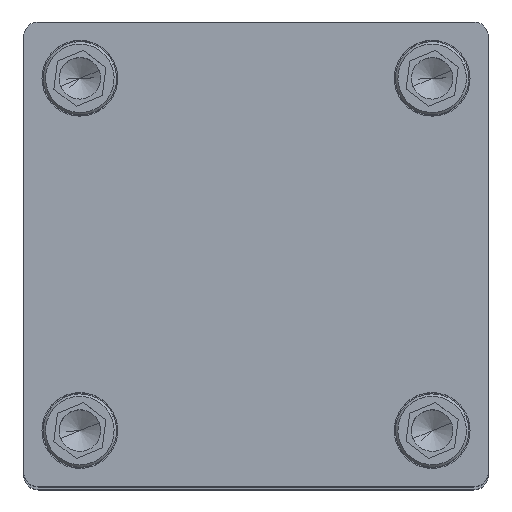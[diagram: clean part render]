
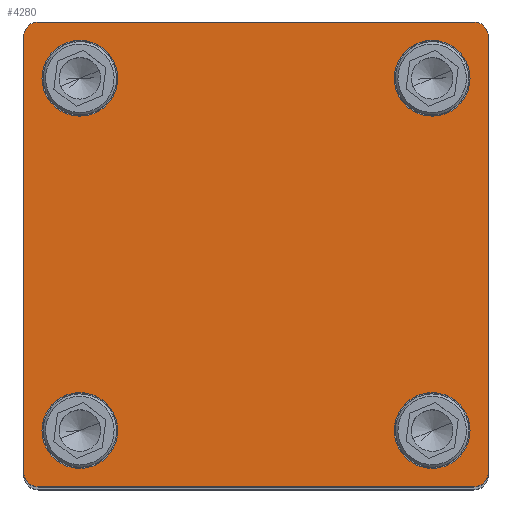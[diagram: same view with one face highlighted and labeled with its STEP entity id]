
A CAD part, top view. The second image highlights one B-rep face of the part: STEP entity #4280.
In plain terms, the highlighted planar face has unit normal (0, 0, 1).
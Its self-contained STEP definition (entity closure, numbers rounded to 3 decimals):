
#2 = DIRECTION ( 'NONE',  ( -1., 0., 0. ) ) ;
#156 = DIRECTION ( 'NONE',  ( 1., 0., 0. ) ) ;
#219 = CARTESIAN_POINT ( 'NONE',  ( -23.619, -31.702, 279.637 ) ) ;
#236 = EDGE_CURVE ( 'NONE', #10016, #1327, #7165, .T. ) ;
#294 = FACE_BOUND ( 'NONE', #10534, .T. ) ;
#313 = EDGE_CURVE ( 'NONE', #1327, #10016, #8422, .T. ) ;
#398 = ORIENTED_EDGE ( 'NONE', *, *, #11713, .T. ) ;
#623 = PLANE ( 'NONE',  #986 ) ;
#986 = AXIS2_PLACEMENT_3D ( 'NONE', #12764, #7748, #9890 ) ;
#1200 = CARTESIAN_POINT ( 'NONE',  ( 40.631, 40.298, 279.637 ) ) ;
#1245 = VERTEX_POINT ( 'NONE', #3929 ) ;
#1280 = EDGE_CURVE ( 'NONE', #2204, #12258, #7285, .T. ) ;
#1327 = VERTEX_POINT ( 'NONE', #5211 ) ;
#1333 = ORIENTED_EDGE ( 'NONE', *, *, #4410, .T. ) ;
#1467 = DIRECTION ( 'NONE',  ( 0., 0., 1. ) ) ;
#1468 = VERTEX_POINT ( 'NONE', #3229 ) ;
#1515 = DIRECTION ( 'NONE',  ( 0., 0., 1. ) ) ;
#1642 = EDGE_CURVE ( 'NONE', #1468, #13047, #7589, .T. ) ;
#1776 = CARTESIAN_POINT ( 'NONE',  ( -42.869, 48.798, 279.637 ) ) ;
#1850 = CARTESIAN_POINT ( 'NONE',  ( 52.131, -40.202, 279.637 ) ) ;
#2073 = DIRECTION ( 'NONE',  ( -1., 0., 0. ) ) ;
#2089 = CARTESIAN_POINT ( 'NONE',  ( 52.131, -43.202, 279.637 ) ) ;
#2204 = VERTEX_POINT ( 'NONE', #5568 ) ;
#2491 = DIRECTION ( 'NONE',  ( 1., 0., 0. ) ) ;
#2508 = DIRECTION ( 'NONE',  ( 1., 0., 0. ) ) ;
#2524 = CARTESIAN_POINT ( 'NONE',  ( -42.869, 51.798, 279.637 ) ) ;
#2849 = CARTESIAN_POINT ( 'NONE',  ( -39.869, -40.202, 279.637 ) ) ;
#2854 = EDGE_CURVE ( 'NONE', #12486, #4898, #4157, .T. ) ;
#3067 = CARTESIAN_POINT ( 'NONE',  ( -39.869, 51.798, 279.637 ) ) ;
#3104 = EDGE_LOOP ( 'NONE', ( #12287, #6011 ) ) ;
#3108 = CARTESIAN_POINT ( 'NONE',  ( -39.869, -43.202, 279.637 ) ) ;
#3229 = CARTESIAN_POINT ( 'NONE',  ( 32.881, -31.702, 279.637 ) ) ;
#3638 = DIRECTION ( 'NONE',  ( -1., 0., 0. ) ) ;
#3929 = CARTESIAN_POINT ( 'NONE',  ( -39.119, -31.702, 279.637 ) ) ;
#3958 = CIRCLE ( 'NONE', #10647, 3. ) ;
#3975 = DIRECTION ( 'NONE',  ( 0., 0., 1. ) ) ;
#3987 = DIRECTION ( 'NONE',  ( 1., 0., 0. ) ) ;
#3999 = AXIS2_PLACEMENT_3D ( 'NONE', #6900, #6764, #7729 ) ;
#4057 = DIRECTION ( 'NONE',  ( 0., 1., 0. ) ) ;
#4082 = DIRECTION ( 'NONE',  ( 0., 0., 1. ) ) ;
#4127 = CARTESIAN_POINT ( 'NONE',  ( 49.131, 48.798, 279.637 ) ) ;
#4157 = CIRCLE ( 'NONE', #6154, 7.75 ) ;
#4203 = VERTEX_POINT ( 'NONE', #12491 ) ;
#4278 = FACE_BOUND ( 'NONE', #10869, .T. ) ;
#4280 = ADVANCED_FACE ( 'NONE', ( #4278, #10435, #294, #9969, #8094 ), #623, .F. ) ;
#4393 = AXIS2_PLACEMENT_3D ( 'NONE', #13081, #7054, #2 ) ;
#4396 = LINE ( 'NONE', #4531, #7417 ) ;
#4410 = EDGE_CURVE ( 'NONE', #9942, #7432, #3958, .T. ) ;
#4531 = CARTESIAN_POINT ( 'NONE',  ( -42.869, -43.202, 279.637 ) ) ;
#4572 = DIRECTION ( 'NONE',  ( 0., -1., 0. ) ) ;
#4635 = EDGE_CURVE ( 'NONE', #10549, #1245, #8553, .T. ) ;
#4697 = ORIENTED_EDGE ( 'NONE', *, *, #12936, .F. ) ;
#4775 = ORIENTED_EDGE ( 'NONE', *, *, #1280, .T. ) ;
#4839 = ORIENTED_EDGE ( 'NONE', *, *, #1642, .F. ) ;
#4898 = VERTEX_POINT ( 'NONE', #13062 ) ;
#5014 = DIRECTION ( 'NONE',  ( 0., 0., 1. ) ) ;
#5164 = EDGE_CURVE ( 'NONE', #11152, #9942, #4396, .T. ) ;
#5211 = CARTESIAN_POINT ( 'NONE',  ( -39.119, 40.298, 279.637 ) ) ;
#5239 = VECTOR ( 'NONE', #8692, 1000. ) ;
#5243 = CIRCLE ( 'NONE', #3999, 7.75 ) ;
#5256 = CARTESIAN_POINT ( 'NONE',  ( 48.381, -31.702, 279.637 ) ) ;
#5383 = VECTOR ( 'NONE', #10478, 1000. ) ;
#5385 = CARTESIAN_POINT ( 'NONE',  ( -42.869, -43.202, 279.637 ) ) ;
#5568 = CARTESIAN_POINT ( 'NONE',  ( 49.131, -43.202, 279.637 ) ) ;
#6011 = ORIENTED_EDGE ( 'NONE', *, *, #2854, .F. ) ;
#6154 = AXIS2_PLACEMENT_3D ( 'NONE', #1200, #7294, #12490 ) ;
#6245 = CARTESIAN_POINT ( 'NONE',  ( 40.631, 40.298, 279.637 ) ) ;
#6267 = EDGE_CURVE ( 'NONE', #7432, #2204, #10758, .T. ) ;
#6287 = AXIS2_PLACEMENT_3D ( 'NONE', #6734, #1515, #9586 ) ;
#6478 = CARTESIAN_POINT ( 'NONE',  ( 40.631, -31.702, 279.637 ) ) ;
#6516 = AXIS2_PLACEMENT_3D ( 'NONE', #10950, #10767, #9845 ) ;
#6631 = EDGE_CURVE ( 'NONE', #11353, #11152, #9668, .T. ) ;
#6707 = EDGE_CURVE ( 'NONE', #1245, #10549, #5243, .T. ) ;
#6734 = CARTESIAN_POINT ( 'NONE',  ( -31.369, 40.298, 279.637 ) ) ;
#6764 = DIRECTION ( 'NONE',  ( 0., 0., 1. ) ) ;
#6781 = CARTESIAN_POINT ( 'NONE',  ( 49.131, 51.798, 279.637 ) ) ;
#6900 = CARTESIAN_POINT ( 'NONE',  ( -31.369, -31.702, 279.637 ) ) ;
#7054 = DIRECTION ( 'NONE',  ( 0., 0., 1. ) ) ;
#7117 = CARTESIAN_POINT ( 'NONE',  ( 32.881, 40.298, 279.637 ) ) ;
#7165 = CIRCLE ( 'NONE', #6287, 7.75 ) ;
#7285 = CIRCLE ( 'NONE', #4393, 3. ) ;
#7294 = DIRECTION ( 'NONE',  ( 0., 0., 1. ) ) ;
#7324 = AXIS2_PLACEMENT_3D ( 'NONE', #4127, #5014, #2073 ) ;
#7417 = VECTOR ( 'NONE', #4572, 1000. ) ;
#7432 = VERTEX_POINT ( 'NONE', #3108 ) ;
#7443 = CARTESIAN_POINT ( 'NONE',  ( -23.619, 40.298, 279.637 ) ) ;
#7472 = LINE ( 'NONE', #2524, #5239 ) ;
#7496 = AXIS2_PLACEMENT_3D ( 'NONE', #6245, #4082, #156 ) ;
#7508 = ORIENTED_EDGE ( 'NONE', *, *, #6707, .F. ) ;
#7555 = DIRECTION ( 'NONE',  ( 0., 0., 1. ) ) ;
#7557 = EDGE_CURVE ( 'NONE', #4203, #10243, #12311, .T. ) ;
#7589 = CIRCLE ( 'NONE', #12445, 7.75 ) ;
#7729 = DIRECTION ( 'NONE',  ( 1., 0., 0. ) ) ;
#7748 = DIRECTION ( 'NONE',  ( 0., 0., -1. ) ) ;
#7757 = ORIENTED_EDGE ( 'NONE', *, *, #7557, .T. ) ;
#7846 = ORIENTED_EDGE ( 'NONE', *, *, #4635, .F. ) ;
#8061 = DIRECTION ( 'NONE',  ( -1., 0., 0. ) ) ;
#8094 = FACE_OUTER_BOUND ( 'NONE', #11975, .T. ) ;
#8135 = EDGE_CURVE ( 'NONE', #4898, #12486, #11190, .T. ) ;
#8196 = ORIENTED_EDGE ( 'NONE', *, *, #313, .F. ) ;
#8379 = CIRCLE ( 'NONE', #11720, 7.75 ) ;
#8407 = ORIENTED_EDGE ( 'NONE', *, *, #5164, .T. ) ;
#8422 = CIRCLE ( 'NONE', #6516, 7.75 ) ;
#8517 = ORIENTED_EDGE ( 'NONE', *, *, #6631, .T. ) ;
#8553 = CIRCLE ( 'NONE', #12434, 7.75 ) ;
#8649 = CARTESIAN_POINT ( 'NONE',  ( -39.869, 48.798, 279.637 ) ) ;
#8692 = DIRECTION ( 'NONE',  ( -1., 0., 0. ) ) ;
#9030 = CARTESIAN_POINT ( 'NONE',  ( 40.631, -31.702, 279.637 ) ) ;
#9586 = DIRECTION ( 'NONE',  ( 1., 0., 0. ) ) ;
#9668 = CIRCLE ( 'NONE', #12796, 3. ) ;
#9845 = DIRECTION ( 'NONE',  ( 1., 0., 0. ) ) ;
#9890 = DIRECTION ( 'NONE',  ( -1., 0., 0. ) ) ;
#9942 = VERTEX_POINT ( 'NONE', #10079 ) ;
#9969 = FACE_BOUND ( 'NONE', #3104, .T. ) ;
#10016 = VERTEX_POINT ( 'NONE', #7443 ) ;
#10031 = DIRECTION ( 'NONE',  ( 0., 0., 1. ) ) ;
#10079 = CARTESIAN_POINT ( 'NONE',  ( -42.869, -40.202, 279.637 ) ) ;
#10138 = LINE ( 'NONE', #2089, #10455 ) ;
#10243 = VERTEX_POINT ( 'NONE', #6781 ) ;
#10435 = FACE_BOUND ( 'NONE', #11734, .T. ) ;
#10455 = VECTOR ( 'NONE', #4057, 1000. ) ;
#10478 = DIRECTION ( 'NONE',  ( 1., 0., 0. ) ) ;
#10521 = EDGE_CURVE ( 'NONE', #12258, #4203, #10138, .T. ) ;
#10534 = EDGE_LOOP ( 'NONE', ( #12440, #8196 ) ) ;
#10549 = VERTEX_POINT ( 'NONE', #219 ) ;
#10637 = CARTESIAN_POINT ( 'NONE',  ( -31.369, -31.702, 279.637 ) ) ;
#10647 = AXIS2_PLACEMENT_3D ( 'NONE', #2849, #3975, #8061 ) ;
#10758 = LINE ( 'NONE', #5385, #5383 ) ;
#10767 = DIRECTION ( 'NONE',  ( 0., 0., 1. ) ) ;
#10869 = EDGE_LOOP ( 'NONE', ( #4697, #4839 ) ) ;
#10950 = CARTESIAN_POINT ( 'NONE',  ( -31.369, 40.298, 279.637 ) ) ;
#11152 = VERTEX_POINT ( 'NONE', #1776 ) ;
#11190 = CIRCLE ( 'NONE', #7496, 7.75 ) ;
#11353 = VERTEX_POINT ( 'NONE', #3067 ) ;
#11518 = DIRECTION ( 'NONE',  ( 0., 0., 1. ) ) ;
#11713 = EDGE_CURVE ( 'NONE', #10243, #11353, #7472, .T. ) ;
#11720 = AXIS2_PLACEMENT_3D ( 'NONE', #9030, #10031, #3987 ) ;
#11734 = EDGE_LOOP ( 'NONE', ( #7846, #7508 ) ) ;
#11851 = ORIENTED_EDGE ( 'NONE', *, *, #10521, .T. ) ;
#11975 = EDGE_LOOP ( 'NONE', ( #12007, #4775, #11851, #7757, #398, #8517, #8407, #1333 ) ) ;
#12007 = ORIENTED_EDGE ( 'NONE', *, *, #6267, .T. ) ;
#12258 = VERTEX_POINT ( 'NONE', #1850 ) ;
#12287 = ORIENTED_EDGE ( 'NONE', *, *, #8135, .F. ) ;
#12311 = CIRCLE ( 'NONE', #7324, 3. ) ;
#12434 = AXIS2_PLACEMENT_3D ( 'NONE', #10637, #1467, #2491 ) ;
#12440 = ORIENTED_EDGE ( 'NONE', *, *, #236, .F. ) ;
#12445 = AXIS2_PLACEMENT_3D ( 'NONE', #6478, #11518, #2508 ) ;
#12486 = VERTEX_POINT ( 'NONE', #7117 ) ;
#12490 = DIRECTION ( 'NONE',  ( 1., 0., 0. ) ) ;
#12491 = CARTESIAN_POINT ( 'NONE',  ( 52.131, 48.798, 279.637 ) ) ;
#12764 = CARTESIAN_POINT ( 'NONE',  ( 52.131, 51.798, 279.637 ) ) ;
#12796 = AXIS2_PLACEMENT_3D ( 'NONE', #8649, #7555, #3638 ) ;
#12936 = EDGE_CURVE ( 'NONE', #13047, #1468, #8379, .T. ) ;
#13047 = VERTEX_POINT ( 'NONE', #5256 ) ;
#13062 = CARTESIAN_POINT ( 'NONE',  ( 48.381, 40.298, 279.637 ) ) ;
#13081 = CARTESIAN_POINT ( 'NONE',  ( 49.131, -40.202, 279.637 ) ) ;
